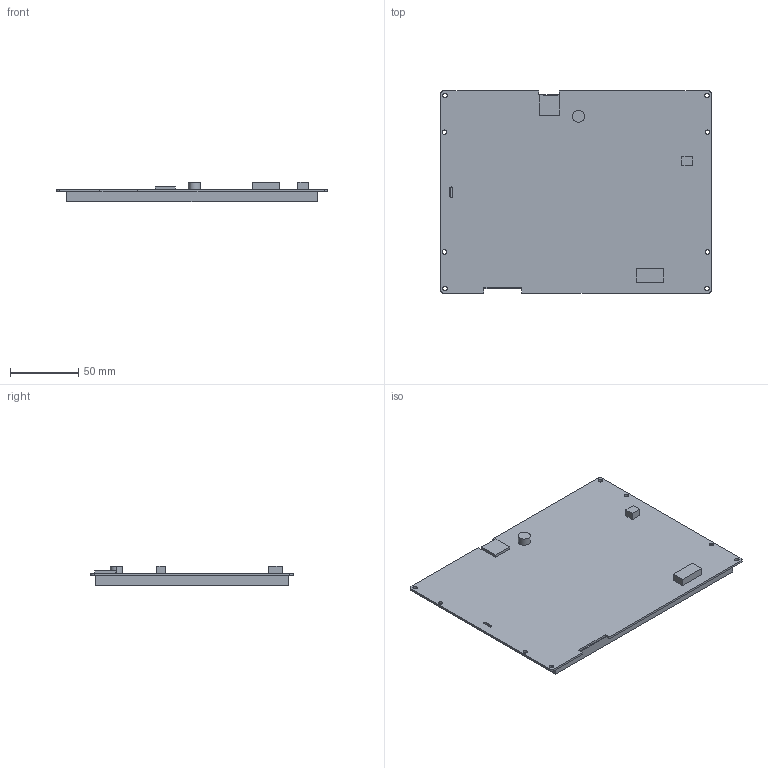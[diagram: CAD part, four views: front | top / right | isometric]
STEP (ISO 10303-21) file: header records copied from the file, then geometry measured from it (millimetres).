
FILE_DESCRIPTION((''),'2;1');
FILE_NAME('DMG80600S080_03W','2022-07-29T',('Administrator'),(''),'PRO/ENGINEER BY PARAMETRIC TECHNOLOGY CORPORATION, 2008380','PRO/ENGINEER BY PARAMETRIC TECHNOLOGY CORPORATION, 2008380','');
FILE_SCHEMA(('CONFIG_CONTROL_DESIGN'));
Products named in the file (1): DMG80600S080_03W
Bounding box: 199.39 x 148.84 x 14.6 mm (x, y, z)
Volume: 236984.6 mm3; surface area: 66092.1 mm2
Topology: 1 solids, 1 shells, 70 faces, 17607 edges, 30603 vertices
Faces by surface type: plane 46, cylinder 24
Entity records: 93756 total; most frequent: DIRECTION 22162, CARTESIAN_POINT 17802, TRIMMED_CURVE 17419, VECTOR 13194, LINE 13194, AXIS2_PLACEMENT_3D 4484, CIRCLE 4413, ORIENTED_EDGE 376
